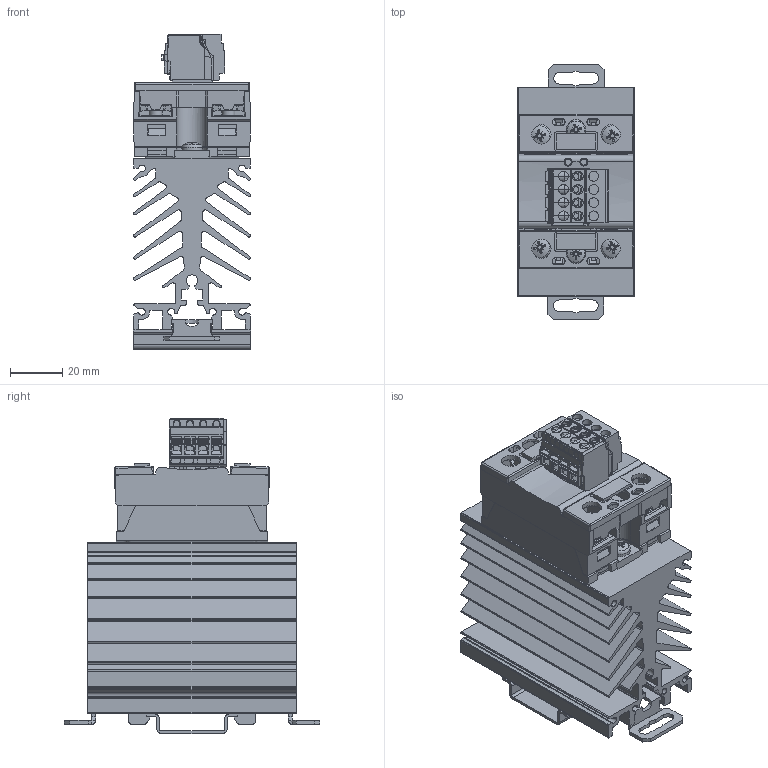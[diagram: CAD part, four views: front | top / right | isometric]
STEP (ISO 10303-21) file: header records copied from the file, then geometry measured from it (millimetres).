
FILE_DESCRIPTION((''),'2;1');
FILE_NAME('C:\Vault_local\Designs\Stock\3D pour clients\2D3D 600\2D3D 600 A.stp','2012-08-02T11:50:50',('Georges THOLLOT ','Tl : +33 (0)4 77 53 90 27','gthollot@celduc.com'),('Celduc r e l a i s','5, rue Ampre, BP 30004','42290 SORBIERS - France','Fax. : +33 (0)4 77 53 85 51','N siret 353 310 519 00015','ISO 9001 N QUAL/1993/1106b','www.celduc.com'),'Autodesk Inventor 2010','Autodesk Inventor 2010','');
FILE_SCHEMA(('CONFIG_CONTROL_DESIGN'));
Length unit declared in the file: millimetre
Products named in the file (11): SOB and connectors sur WF151200; SOB and connectors; SOB; fkcvr_2.5-4-st-5.08; connecteur WAGO 4 bornes au pas de 5.08; blz_5_08_4_90_sn_sw_1552910000_12; BLZ 5.08/4/270 SN SW 1557510000; 1741890000 BLZ 5.08/4/225 SN SW; BLDT 5.08/4 SN SW 1660730000; ISO 7045 Z M4 x 12 - 4.8 - Z; WF151200
Assembly tree (11 placements, depth 3):
  SOB and connectors sur WF151200
    SOB and connectors
      SOB
      fkcvr_2.5-4-st-5.08
      connecteur WAGO 4 bornes au pas de 5.08
      blz_5_08_4_90_sn_sw_1552910000_12
      BLZ 5.08/4/270 SN SW 1557510000
      1741890000 BLZ 5.08/4/225 SN SW
      BLDT 5.08/4 SN SW 1660730000
    ISO 7045 Z M4 x 12 - 4.8 - Z  x2
    WF151200
Bounding box: 45 x 98.02 x 120.95 mm (x, y, z)
Volume: 200563.4 mm3; surface area: 112029 mm2
Topology: 10 solids, 10 shells, 3200 faces, 8670 edges, 5570 vertices
Faces by surface type: plane 1943, cylinder 732, cone 315, bspline 142, sphere 38, torus 30
Full cylindrical faces by diameter (mm): 2.35 x2, 3.6 x12, 3.621 x2, 3.8 x8, 3.9 x12, 4 x2, 4.567 x4, 4.7 x1, 5 x4
Entity records: 105951 total; most frequent: CARTESIAN_POINT 25452, ORIENTED_EDGE 16762, DIRECTION 15770, EDGE_CURVE 8381, VECTOR 5746, LINE 5746, VERTEX_POINT 5470, AXIS2_PLACEMENT_3D 5012
